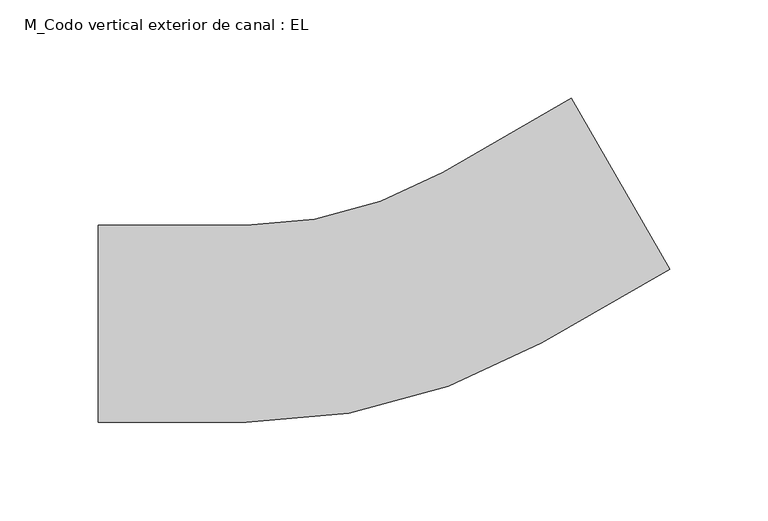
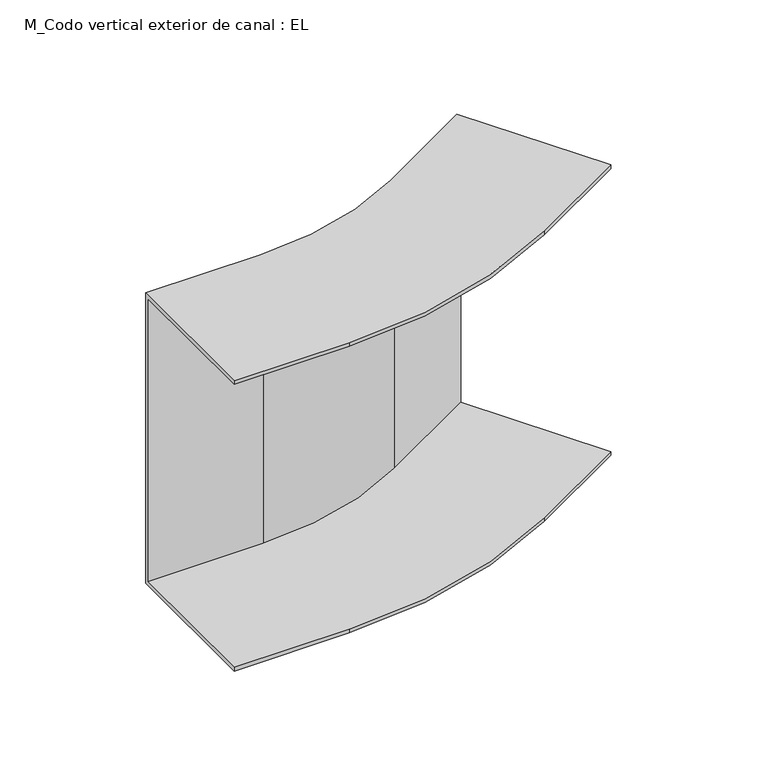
"""IFC4 building model written with IfcOpenShell, lengths in millimetres: cable carrier fitting geometry, M_Codo vertical exterior de canal : EL."""

from ifc_helpers import new_model, si_unit, frame, origin, place, context, project, spatial, polyline, circle_curve, source, transform, mapped, element, save
from ifc_brep_helpers import plane_surface, cylinder_surface, revolved_surface, advanced_brep


def m_codo_vertical_exterior_de_canal_el_b3e8eea7(model_context):
    return source(origin(), model_context, "Body", "AdvancedBrep", [
        advanced_brep(
        [(-141.9872981, -50.0, 100.0), (-141.9872981, 50.0, 100.0), (-141.9872981, 50.0, -100.0), (-141.9872981, -50.0, -100.0), (-141.9872981, -50.0, -97.46), (-141.9872981, 47.46, -97.46), (-141.9872981, 47.46, 97.46), (-141.9872981, -50.0, 97.46), (147.9646072, 27.6923789, 100.0), (147.9646072, 27.6923789, 97.46), (99.2346072, 112.0952147, 97.46), (99.2346072, 112.0952147, -97.46), (147.9646072, 27.6923789, -97.46), (147.9646072, 27.6923789, -100.0), (97.9646072, 114.2949192, -100.0), (97.9646072, 114.2949192, 100.0), (-66.9872981, -50.0, 100.0), (83.0127019, -9.8076211, 100.0), (33.0127019, 76.7949192, 100.0), (-66.9872981, 50.0, 100.0), (-66.9872981, 50.0, -100.0), (33.0127019, 76.7949192, -100.0), (83.0127019, -9.8076211, -100.0), (-66.9872981, -50.0, -100.0), (-66.9872981, -50.0, -97.46), (83.0127019, -9.8076211, -97.46), (34.2827019, 74.5952147, -97.46), (-66.9872981, 47.46, -97.46), (-66.9872981, 47.46, 97.46), (34.2827019, 74.5952147, 97.46), (83.0127019, -9.8076211, 97.46), (-66.9872981, -50.0, 97.46)],
        [
            (0, 1),
            (1, 2),
            (2, 3),
            (3, 4),
            (4, 5),
            (5, 6),
            (6, 7),
            (7, 0),
            (8, 9),
            (9, 10),
            (10, 11),
            (11, 12),
            (12, 13),
            (13, 14),
            (14, 15),
            (15, 8),
            (0, 16),
            (16, 17, circle_curve(frame((-66.9872981, 250.0, 100.0), z_axis=(0.0, 0.0, 1.0), x_axis=(0.0, -1.0, 0.0)), 300.0)),
            (17, 8),
            (15, 18),
            (18, 19, circle_curve(frame((-66.9872981, 250.0, 100.0), z_axis=(0.0, 0.0, -1.0), x_axis=(0.0, -1.0, 0.0)), 200.0)),
            (19, 1),
            (19, 20),
            (20, 2),
            (20, 21, circle_curve(frame((-66.9872981, 250.0, -100.0), z_axis=(0.0, 0.0, 1.0), x_axis=(0.0, -1.0, 0.0)), 200.0)),
            (21, 14),
            (13, 22),
            (22, 23, circle_curve(frame((-66.9872981, 250.0, -100.0), z_axis=(0.0, 0.0, -1.0), x_axis=(0.0, -1.0, 0.0)), 300.0)),
            (23, 3),
            (23, 24),
            (24, 4),
            (24, 25, circle_curve(frame((-66.9872981, 250.0, -97.46), z_axis=(0.0, 0.0, 1.0), x_axis=(0.0, -1.0, 0.0)), 300.0)),
            (25, 12),
            (11, 26),
            (26, 27, circle_curve(frame((-66.9872981, 250.0, -97.46), z_axis=(0.0, 0.0, -1.0), x_axis=(0.0, -1.0, 0.0)), 202.54)),
            (27, 5),
            (27, 28),
            (28, 6),
            (28, 29, circle_curve(frame((-66.9872981, 250.0, 97.46), z_axis=(0.0, 0.0, 1.0), x_axis=(0.0, -1.0, 0.0)), 202.54)),
            (29, 10),
            (9, 30),
            (30, 31, circle_curve(frame((-66.9872981, 250.0, 97.46), z_axis=(0.0, 0.0, -1.0), x_axis=(0.0, -1.0, 0.0)), 300.0)),
            (31, 7),
            (31, 16),
            (18, 21),
            (22, 25),
            (26, 29),
            (30, 17),
        ],
        [
            plane_surface(frame((-141.9872981, 0.0, 0.0), z_axis=(-1.0, 0.0, 0.0), x_axis=(0.0, 0.0, 1.0))),
            plane_surface(frame((122.9646072, 70.9936491, 0.0), z_axis=(0.8660254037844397, 0.49999999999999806, 0.0), x_axis=(0.0, 0.0, 1.0))),
            plane_surface(frame((-141.9872981, -50.0, 100.0), z_axis=(0.0, 0.0, 1.0), x_axis=(1.0, 0.0, 0.0))),
            plane_surface(frame((-141.9872981, 50.0, 100.0), z_axis=(0.0, 1.0, 0.0), x_axis=(1.0, 0.0, 0.0))),
            plane_surface(frame((-141.9872981, 50.0, -100.0), z_axis=(0.0, 0.0, -1.0), x_axis=(1.0, 0.0, 0.0))),
            plane_surface(frame((-141.9872981, -50.0, -100.0), z_axis=(0.0, -1.0, 0.0), x_axis=(1.0, 0.0, 0.0))),
            plane_surface(frame((-141.9872981, -50.0, -97.46), z_axis=(0.0, 0.0, 1.0), x_axis=(1.0, 0.0, 0.0))),
            plane_surface(frame((-141.9872981, 47.46, -97.46), z_axis=(0.0, -1.0, 0.0), x_axis=(1.0, 0.0, 0.0))),
            plane_surface(frame((-141.9872981, 47.46, 97.46), z_axis=(0.0, 0.0, -1.0), x_axis=(1.0, 0.0, 0.0))),
            plane_surface(frame((-141.9872981, -50.0, 97.46), z_axis=(0.0, -1.0, 0.0), x_axis=(1.0, 0.0, 0.0))),
            revolved_surface(polyline([(-66.9872981, 50.0, 100.0), (-66.9872981, 50.0, -100.0)]), (-66.9872981, 250.0, 0.0), (0.0, 0.0, 1.0)),
            cylinder_surface(frame((-66.9872981, 250.0, 0.0), z_axis=(0.0, 0.0, 1.0), x_axis=(0.0, -1.0, 0.0)), 300.0),
            cylinder_surface(frame((-66.9872981, 250.0, 0.0), z_axis=(0.0, 0.0, 1.0), x_axis=(0.0, -1.0, 0.0)), 202.54),
            plane_surface(frame((33.0127019, 76.7949192, 100.0), z_axis=(-0.4999999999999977, 0.8660254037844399, 0.0), x_axis=(0.8660254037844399, 0.4999999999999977, 0.0))),
            plane_surface(frame((83.0127019, -9.8076211, -100.0), z_axis=(0.49999999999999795, -0.8660254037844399, 0.0), x_axis=(0.8660254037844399, 0.49999999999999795, 0.0))),
            plane_surface(frame((34.2827019, 74.5952147, -97.46), z_axis=(0.4999999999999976, -0.86602540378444, 0.0), x_axis=(0.86602540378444, 0.4999999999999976, 0.0))),
            plane_surface(frame((83.0127019, -9.8076211, 97.46), z_axis=(0.49999999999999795, -0.8660254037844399, 0.0), x_axis=(0.8660254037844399, 0.49999999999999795, 0.0))),
        ],
        [
            (0, [[1, 2, 3, 4, 5, 6, 7, 8]]),
            (1, [[9, 10, 11, 12, 13, 14, 15, 16]]),
            (2, [[-1, 17, 18, 19, -16, 20, 21, 22]]),
            (3, [[-2, -22, 23, 24]]),
            (4, [[-3, -24, 25, 26, -14, 27, 28, 29]]),
            (5, [[-4, -29, 30, 31]]),
            (6, [[-5, -31, 32, 33, -12, 34, 35, 36]]),
            (7, [[-6, -36, 37, 38]]),
            (8, [[-7, -38, 39, 40, -10, 41, 42, 43]]),
            (9, [[-8, -43, 44, -17]]),
            (10, [[-25, -23, -21, 45]]),
            (11, [[-32, -30, -28, 46]]),
            (12, [[-39, -37, -35, 47]]),
            (11, [[-18, -44, -42, 48]]),
            (13, [[-45, -20, -15, -26]]),
            (14, [[-46, -27, -13, -33]]),
            (15, [[-47, -34, -11, -40]]),
            (16, [[-48, -41, -9, -19]]),
        ],
    ),
    ])


if __name__ == "__main__":
    model = new_model("IFC4")
    model_context = context("Model", 3, world=origin())
    ifc_project = project(units=[si_unit("LENGTHUNIT", "METRE", prefix="MILLI")], contexts=[model_context])
    site = spatial("IfcSite", under=ifc_project)
    building = spatial("IfcBuilding", under=site)
    placement = place(None, origin())
    m_codo_vertical_exterior_de_canal_el_shape = m_codo_vertical_exterior_de_canal_el_b3e8eea7(model_context)
    element("IfcCableCarrierFitting", 1, ObjectType="M_Codo vertical exterior de canal : EL", at=placement, inside=building, context=model_context, shape_type="MappedRepresentation", body=[
        mapped(m_codo_vertical_exterior_de_canal_el_shape, transform((0.0, 0.0, 0.0), x_axis=(1.0, 0.0, 0.0), y_axis=(0.0, 1.0, 0.0), z_axis=(0.0, 0.0, 1.0))),
    ])
    save(model, "model.ifc")
